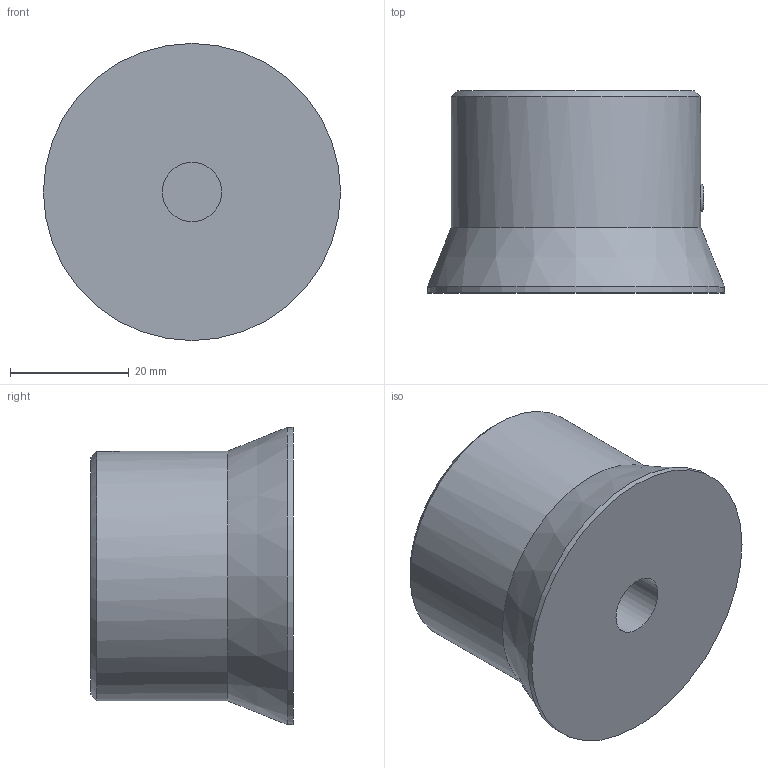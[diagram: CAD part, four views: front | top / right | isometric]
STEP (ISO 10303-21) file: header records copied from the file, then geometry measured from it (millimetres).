
FILE_DESCRIPTION( ( 'STEP AP203' ), '1' );
FILE_NAME( 'C:/Temp/Ganter_Step_05_03_2020/data/1_4/gn_726_2/gn_726_2_s/gn_726_2_s_1/Control knob GN 726.2-42-B10-S-1.stp', '2020-03-05T10:50:06', ( 'License CC BY-ND 4.0' ), ( 'CADENAS' ), ' ', 'PARTsolutions', ' ' );
FILE_SCHEMA( ( 'CONFIG_CONTROL_DESIGN' ) );
Length unit declared in the file: millimetre
Products named in the file (1): _Control knob GN 726.2-42-B10-S-1
Bounding box: 50 x 34 x 50 mm (x, y, z)
Volume: 47649.6 mm3; surface area: 9033.2 mm2
Topology: 1 solids, 1 shells, 128 faces, 364 edges, 241 vertices
Faces by surface type: cylinder 85, plane 39, cone 4
Full cylindrical faces by diameter (mm): 10 x1, 42 x1, 50 x1
Entity records: 4546 total; most frequent: CARTESIAN_POINT 1307, ORIENTED_EDGE 710, DIRECTION 616, EDGE_CURVE 355, VERTEX_POINT 239, AXIS2_PLACEMENT_3D 232, LINE 152, VECTOR 152
